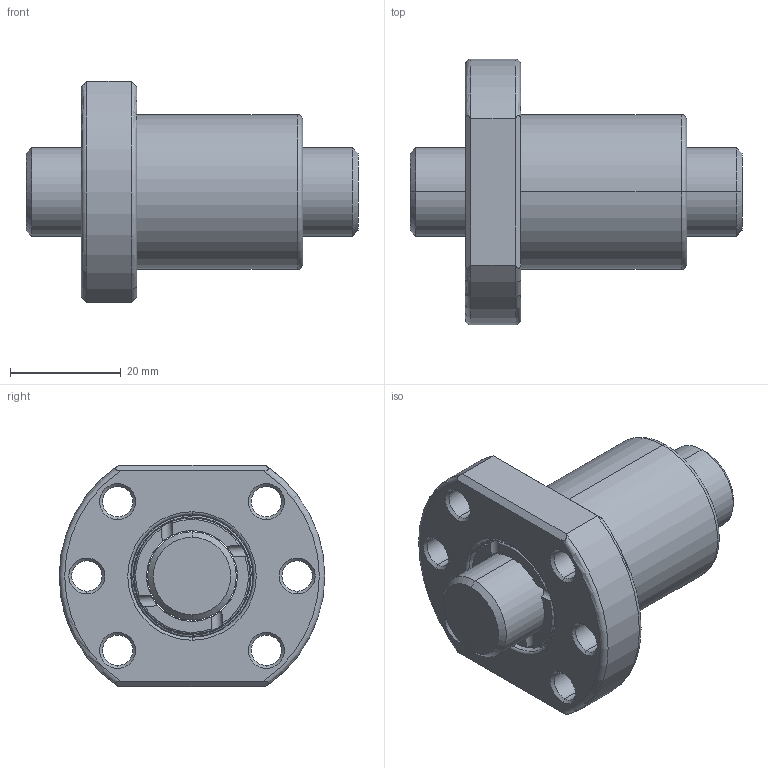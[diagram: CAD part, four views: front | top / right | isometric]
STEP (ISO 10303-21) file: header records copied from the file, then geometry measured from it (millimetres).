
FILE_DESCRIPTION (( 'STEP AP203' ), '1' );
FILE_NAME ('SFUR01604T4D-C.STEP', '2020-06-18T02:12:34', ( '' ), ( '' ), 'SwSTEP 2.0', 'SolidWorks 2013', '' );
FILE_SCHEMA (( 'CONFIG_CONTROL_DESIGN' ));
Length unit declared in the file: millimetre
Products named in the file (1): SFUR01604T4D-C
Bounding box: 60 x 48 x 40 mm (x, y, z)
Volume: 35777.9 mm3; surface area: 14480.3 mm2
Topology: 2 solids, 2 shells, 124 faces, 298 edges, 182 vertices
Faces by surface type: cylinder 54, torus 28, plane 26, cone 16
Entity records: 4797 total; most frequent: CARTESIAN_POINT 1807, DIRECTION 634, ORIENTED_EDGE 596, EDGE_CURVE 298, AXIS2_PLACEMENT_3D 275, VERTEX_POINT 182, CIRCLE 150, EDGE_LOOP 146
